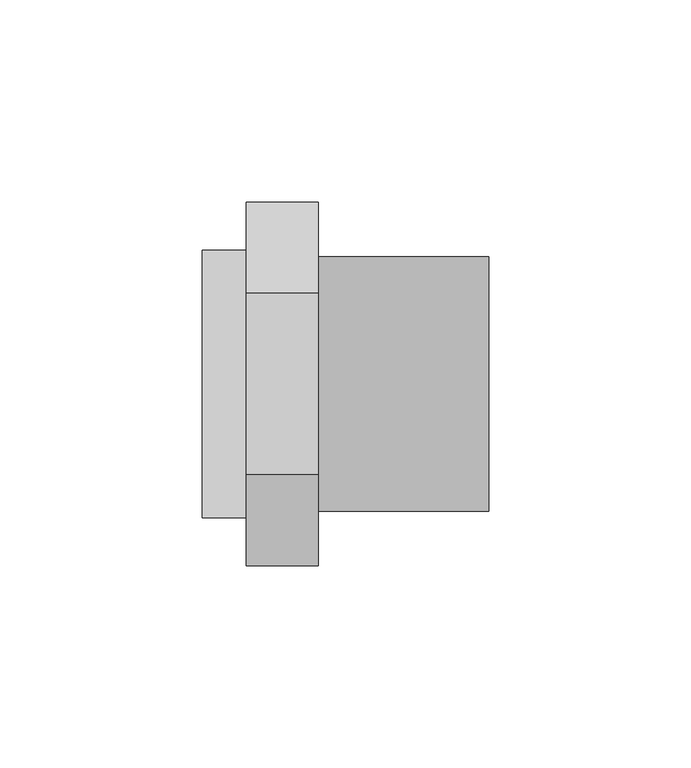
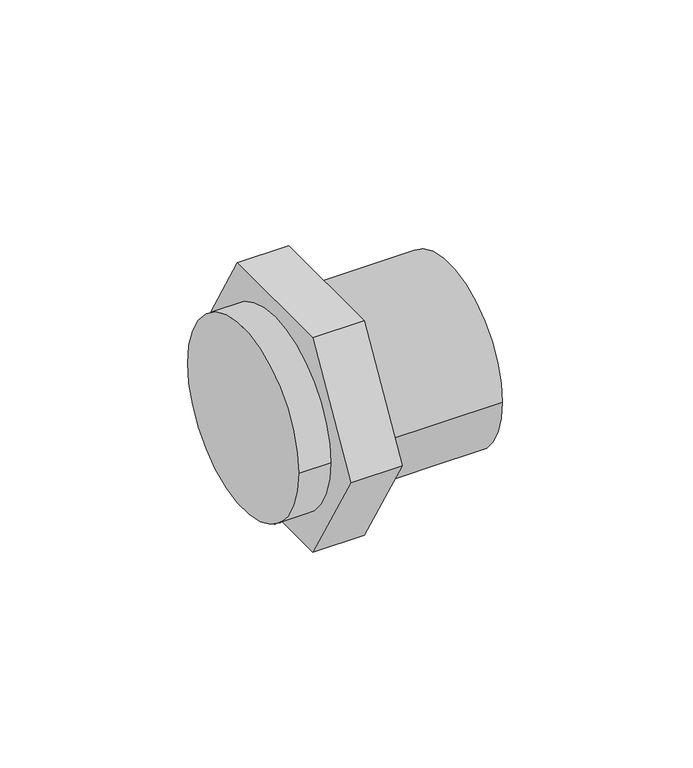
"""IFC4 building model written with IfcOpenShell, lengths in millimetres: pipe fitting geometry, 01101008 : Uniões múltiplas F/M/F."""

from ifc_helpers import new_model, si_unit, point, frame, origin, origin_2d, place, context, project, spatial, polyline, circle_curve, trimmed, segment, composite_curve, outline, extrude, source, transform, mapped, element, save


def pipe_fitting_f417e26f(model_context):
    return source(origin(), model_context, "Body", "SweptSolid", [
        extrude(outline(composite_curve([segment(trimmed(circle_curve(origin_2d(), 33.075), [point((33.075, 0.0))], [point((-33.075, 0.0))], False, "CARTESIAN"), True, "CONTINUOUS"), segment(trimmed(circle_curve(origin_2d(), 33.075), [point((-33.075, 0.0))], [point((33.075, 0.0))], False, "CARTESIAN"), True, "CONTINUOUS")], self_intersect=False)), frame((0.0, 0.0, 0.0), z_axis=(1.0, 0.0, 0.0), x_axis=(0.0, 1.0, 0.0)), (0.0, 0.0, 1.0), 11.0),
        extrude(outline(polyline([(-22.5166605, 39.0), (22.5166605, 39.0), (45.033321, 0.0), (22.5166605, -39.0), (-22.5166605, -39.0), (-45.033321, 0.0), (-22.5166605, 39.0)])), frame((11.0, 0.0, 0.0), z_axis=(1.0, 0.0, 0.0), x_axis=(0.0, 1.0, 0.0)), (0.0, 0.0, 1.0), 17.75),
        extrude(outline(composite_curve([segment(trimmed(circle_curve(origin_2d(), 31.5), [point((-31.5, 0.0))], [point((31.5, 0.0))], False, "CARTESIAN"), True, "CONTINUOUS"), segment(trimmed(circle_curve(origin_2d(), 31.5), [point((31.5, 0.0))], [point((-31.5, 0.0))], False, "CARTESIAN"), True, "CONTINUOUS")], self_intersect=False)), frame((28.75, 0.0, 0.0), z_axis=(1.0, 0.0, 0.0), x_axis=(0.0, 1.0, 0.0)), (0.0, 0.0, 1.0), 42.25),
    ])


if __name__ == "__main__":
    model = new_model("IFC4")
    model_context = context("Model", 3, world=origin())
    ifc_project = project(units=[si_unit("LENGTHUNIT", "METRE", prefix="MILLI")], contexts=[model_context])
    site = spatial("IfcSite", under=ifc_project)
    building = spatial("IfcBuilding", under=site)
    placement = place(None, origin())
    pipe_fitting_shape = pipe_fitting_f417e26f(model_context)
    element("IfcPipeFitting", 1, ObjectType="01101008 : Uniões múltiplas F/M/F", at=placement, inside=building, context=model_context, shape_type="MappedRepresentation", body=[
        mapped(pipe_fitting_shape, transform((0.0, 0.0, 0.0), x_axis=(1.0, 0.0, 0.0), y_axis=(0.0, 1.0, 0.0), z_axis=(0.0, 0.0, 1.0))),
    ])
    save(model, "model.ifc")
